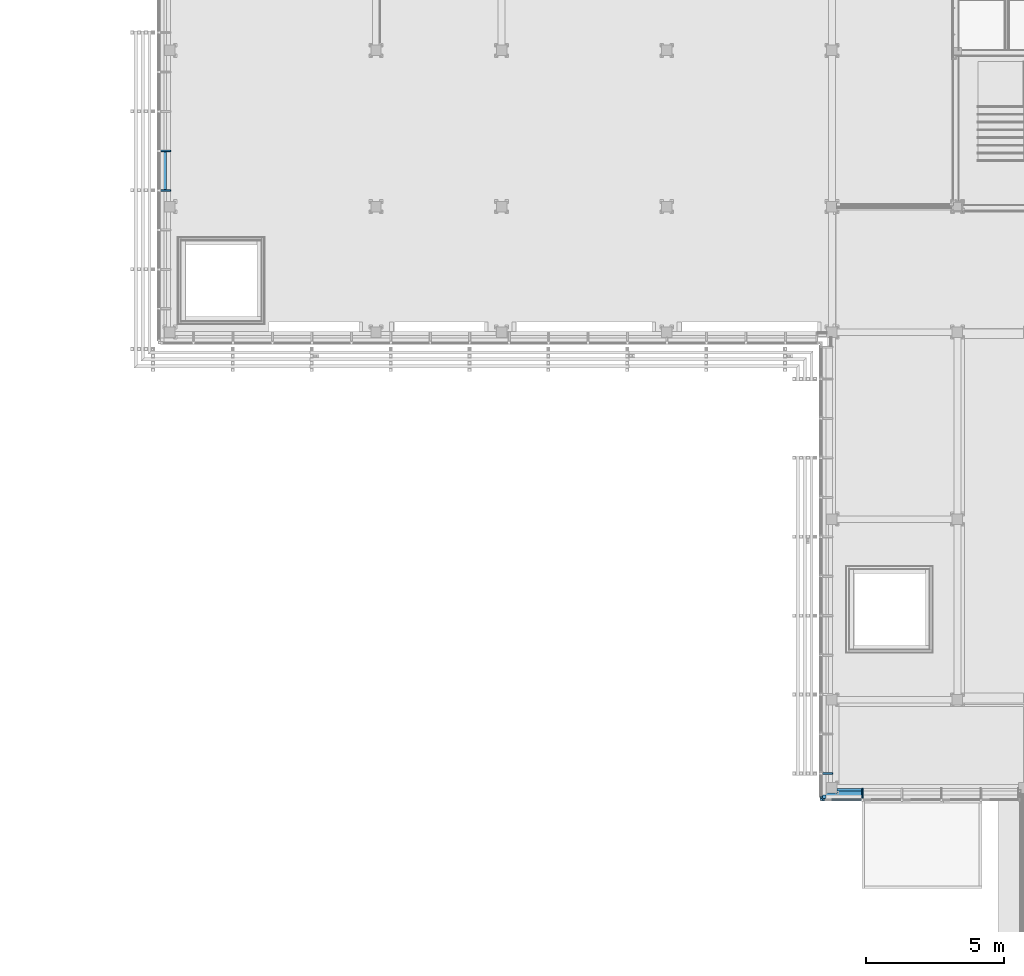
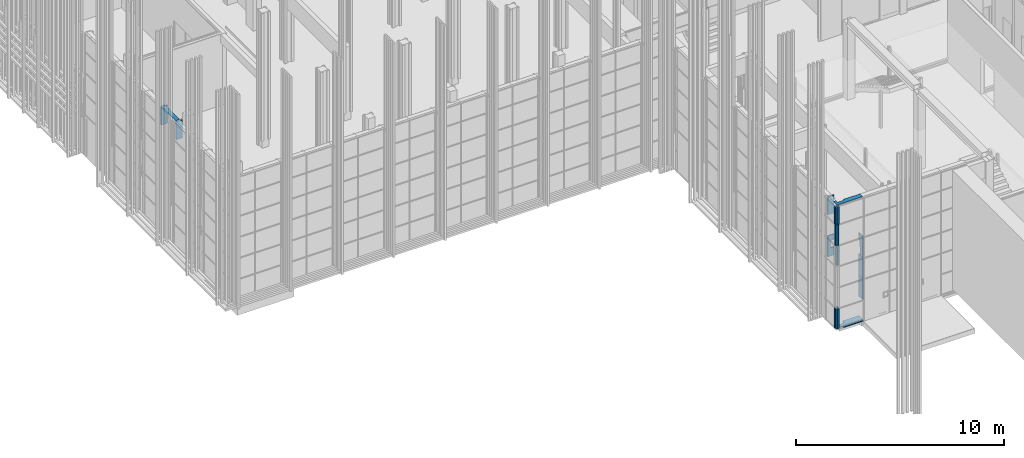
# One storey, part 68 of 260: 17 members, 3 elements without a shape of their own.
"""IFC2X3 building model written with IfcOpenShell, lengths in millimetres."""

from ifc_helpers import new_model, entity, si_unit, converted_unit, derived_unit, money_unit, direction, frame, origin_with_axes, place, context, subcontext, project, spatial, faceted_brep, material, type_object, element, aggregate, save


model = new_model("IFC2X3")

# Units and contexts
model_context = context("Model", 3, precision=0.01, world=origin_with_axes(), true_north=direction((0.0, 1.0)))
body_context = subcontext(model_context, "Body", "Model", "MODEL_VIEW")
ifc_project = project(units=[si_unit("LENGTHUNIT", "METRE", prefix="MILLI"), si_unit("AREAUNIT", "SQUARE_METRE"), si_unit("VOLUMEUNIT", "CUBIC_METRE"), converted_unit("PLANEANGLEUNIT", "DEGREE", entity("IfcPlaneAngleMeasure", 0.0174532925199), si_unit("PLANEANGLEUNIT", "RADIAN"), dimensions=[0, 0, 0, 0, 0, 0, 0]), money_unit("EUR"), converted_unit("TIMEUNIT", "Year", entity("IfcTimeMeasure", 31556926.0), si_unit("TIMEUNIT", "SECOND"), dimensions=[0, 0, 1, 0, 0, 0, 0]), si_unit("MASSUNIT", "GRAM", prefix="KILO"), si_unit("THERMODYNAMICTEMPERATUREUNIT", "DEGREE_CELSIUS"), si_unit("LUMINOUSINTENSITYUNIT", "LUMEN"), si_unit("ENERGYUNIT", "JOULE", prefix="MEGA"), derived_unit("THERMALCONDUCTANCEUNIT", [(si_unit("POWERUNIT", "WATT"), 1), (si_unit("LENGTHUNIT", "METRE"), -1), (si_unit("THERMODYNAMICTEMPERATUREUNIT", "KELVIN"), -1)]), derived_unit("SPECIFICHEATCAPACITYUNIT", [(si_unit("ENERGYUNIT", "JOULE"), 1), (si_unit("MASSUNIT", "GRAM", prefix="KILO"), -1), (si_unit("THERMODYNAMICTEMPERATUREUNIT", "KELVIN"), -1)]), derived_unit("MASSDENSITYUNIT", [(si_unit("MASSUNIT", "GRAM", prefix="KILO"), 1), (si_unit("VOLUMEUNIT", "CUBIC_METRE"), -1)])], contexts=[model_context])

# Site, building, storey
site_placement = place(None, origin_with_axes())
site = spatial("IfcSite", under=ifc_project, at=site_placement, Name="Kolde pst 67a", CompositionType="ELEMENT")
building_placement = place(site_placement, origin_with_axes())
building = spatial("IfcBuilding", under=site, at=building_placement, Name="Riigigümnaasium", CompositionType="ELEMENT")
storey_placement = place(building_placement, origin_with_axes())
storey = spatial("IfcBuildingStorey", under=building, at=storey_placement, Name="1. korrus", CompositionType="ELEMENT", Elevation=0.0)

# Curtain wall, members
curtain_wall_type = type_object("IfcCurtainWallType", Name="Curtain Wall Type", PredefinedType="NOTDEFINED")
curtain_wall_1_placement = place(storey_placement, frame((47829.9854655, 8727.77020058, -0.000749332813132), z_axis=(0.0, 0.0, 1.0), x_axis=(1.0, 0.0, 0.0)))
curtain_wall_1 = element("IfcCurtainWall", 1, at=curtain_wall_1_placement, inside=storey, type_object=curtain_wall_type, Name="KLAASFASSAAD")
ifc_material_1 = material(Name="_METALL - alumiinium")
member_type_1 = type_object("IfcMemberType", Name="Corner Frame 80 x 100", PredefinedType="MEMBER")
member_1_placement = place(curtain_wall_1_placement, frame((1.32891386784e-06, -1457.77010008, 0.0), z_axis=(0.0, 0.0, 1.0), x_axis=(0.707106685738, -0.707106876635, 0.0)))
member_1 = element("IfcMember", 2, at=member_1_placement, type_object=member_type_1, material=ifc_material_1, Name="RF RAAM NURK-947", ObjectType="MEMBER", context=body_context, shape_type="Brep", body=[
    faceted_brep([(-89.4490168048, 66.1144718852, 50.0), (-89.4490168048, 66.1144718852, 1230.00074933), (-66.1144961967, 89.4489988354, 1230.00074933), (-66.1144961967, 89.4489988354, 50.0), (-75.3068792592, 51.9723381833, 50.0), (-75.3068792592, 51.9723381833, 1230.00074933), (-51.9723586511, 75.3068651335, 1230.00074933), (-51.9723586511, 75.3068651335, 50.0)], [[[0, 1, 2, 3]], [[4, 5, 1, 0]], [[2, 1, 5, 6]], [[3, 2, 6, 7]], [[3, 7, 4, 0]], [[7, 6, 5, 4]]]),
    faceted_brep([(-87.3277025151, 110.662199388, 50.0), (-87.3277025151, 110.662199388, 1230.00074933), (-56.5685617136, 141.42134855, 1230.00074933), (-56.5685617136, 141.42134855, 50.0), (-30.7591523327, 54.0936645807, 50.0), (-30.7591523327, 54.0936645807, 1230.00074933), (-1.15311920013e-05, 84.8528137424, 1230.00074933), (-1.15311920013e-05, 84.8528137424, 50.0)], [[[0, 1, 2, 3]], [[4, 5, 1, 0]], [[2, 1, 5, 6]], [[3, 2, 6, 7]], [[3, 7, 4, 0]], [[7, 6, 5, 4]]]),
    faceted_brep([(-54.0936729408, 30.7591376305, 50.0), (-54.0936729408, 30.7591376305, 1230.00074933), (-70.7106800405, 14.1421260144, 1230.00074933), (-70.7106800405, 14.1421260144, 50.0), (-110.662223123, 87.3276724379, 50.0), (-110.662223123, 87.3276724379, 1230.00074933), (-127.279230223, 70.7106608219, 1230.00074933), (-127.279230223, 70.7106608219, 50.0)], [[[0, 1, 2, 3]], [[4, 5, 1, 0]], [[2, 1, 5, 6]], [[3, 2, 6, 7]], [[3, 7, 4, 0]], [[7, 6, 5, 4]]]),
    faceted_brep([(49.8510328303, 35.0017788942, 50.0), (49.8510328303, 35.0017788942, 1230.00074933), (54.0936729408, 30.7591376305, 1230.00074933), (54.0936729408, 30.7591376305, 50.0), (0.0, -14.849240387, 50.0), (0.0, -14.849240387, 1230.00074933), (-49.8510328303, 35.0017788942, 1230.00074933), (-54.0936729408, 30.7591376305, 1230.00074933), (0.0, -23.3345206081, 1230.00074933), (0.0, -23.3345206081, 50.0), (-54.0936729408, 30.7591376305, 50.0), (-49.8510328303, 35.0017788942, 50.0)], [[[0, 1, 2, 3]], [[4, 5, 1, 0]], [[2, 1, 5, 6, 7, 8]], [[3, 2, 8, 9]], [[3, 9, 10, 11, 4, 0]], [[11, 6, 5, 4]], [[10, 7, 6, 11]], [[9, 8, 7, 10]]]),
    faceted_brep([(45.6083915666, 30.7591387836, 50.0), (45.6083915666, 30.7591387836, 1230.00074933), (18.738337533, 57.6292001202, 1230.00074933), (18.738337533, 57.6292001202, 50.0), (49.8510328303, 35.0017788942, 50.0), (49.8510328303, 35.0017788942, 1230.00074933), (18.7383386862, 66.1144814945, 1230.00074933), (0.0, 47.3761479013, 1230.00074933), (-18.7383386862, 66.1144814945, 1230.00074933), (-49.8510328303, 35.0017788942, 1230.00074933), (-45.6083915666, 30.7591387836, 1230.00074933), (-18.738337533, 57.6292001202, 1230.00074933), (0.0, 38.8908676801, 1230.00074933), (0.0, 38.8908676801, 50.0), (-18.738337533, 57.6292001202, 50.0), (-45.6083915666, 30.7591387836, 50.0), (-49.8510328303, 35.0017788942, 50.0), (-18.7383386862, 66.1144814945, 50.0), (0.0, 47.3761479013, 50.0), (18.7383386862, 66.1144814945, 50.0)], [[[0, 1, 2, 3]], [[4, 5, 1, 0]], [[2, 1, 5, 6, 7, 8, 9, 10, 11, 12]], [[3, 2, 12, 13]], [[3, 13, 14, 15, 16, 17, 18, 19, 4, 0]], [[19, 6, 5, 4]], [[18, 7, 6, 19]], [[17, 8, 7, 18]], [[16, 9, 8, 17]], [[15, 10, 9, 16]], [[14, 11, 10, 15]], [[13, 12, 11, 14]]]),
    faceted_brep([(18.738337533, 57.6292001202, 50.0), (18.738337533, 57.6292001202, 1230.00074933), (45.6083915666, 30.7591387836, 1230.00074933), (45.6083915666, 30.7591387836, 50.0), (0.0, 38.8908676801, 50.0), (0.0, 38.8908676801, 1230.00074933), (-18.738337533, 57.6292001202, 1230.00074933), (-45.6083915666, 30.7591387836, 1230.00074933), (0.0, -14.849240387, 1230.00074933), (0.0, -14.849240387, 50.0), (-45.6083915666, 30.7591387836, 50.0), (-18.738337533, 57.6292001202, 50.0)], [[[0, 1, 2, 3]], [[4, 5, 1, 0]], [[2, 1, 5, 6, 7, 8]], [[3, 2, 8, 9]], [[3, 9, 10, 11, 4, 0]], [[11, 6, 5, 4]], [[10, 7, 6, 11]], [[9, 8, 7, 10]]]),
    faceted_brep([(75.3068792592, 51.9723381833, 50.0), (75.3068792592, 51.9723381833, 1230.00074933), (51.9723586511, 75.3068651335, 1230.00074933), (51.9723586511, 75.3068651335, 50.0), (89.4490168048, 66.1144718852, 50.0), (89.4490168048, 66.1144718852, 1230.00074933), (66.1144961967, 89.4489988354, 1230.00074933), (66.1144961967, 89.4489988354, 50.0)], [[[0, 1, 2, 3]], [[4, 5, 1, 0]], [[2, 1, 5, 6]], [[3, 2, 6, 7]], [[3, 7, 4, 0]], [[7, 6, 5, 4]]]),
    faceted_brep([(30.7591523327, 54.0936645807, 50.0), (30.7591523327, 54.0936645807, 1230.00074933), (1.15311848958e-05, 84.8528137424, 1230.00074933), (1.15311848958e-05, 84.8528137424, 50.0), (87.3277025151, 110.662199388, 50.0), (87.3277025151, 110.662199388, 1230.00074933), (56.5685617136, 141.42134855, 1230.00074933), (56.5685617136, 141.42134855, 50.0)], [[[0, 1, 2, 3]], [[4, 5, 1, 0]], [[2, 1, 5, 6]], [[3, 2, 6, 7]], [[3, 7, 4, 0]], [[7, 6, 5, 4]]]),
    faceted_brep([(110.662223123, 87.327672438, 50.0), (110.662223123, 87.327672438, 1230.00074933), (127.279230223, 70.7106608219, 1230.00074933), (127.279230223, 70.7106608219, 50.0), (54.0936729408, 30.7591376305, 50.0), (54.0936729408, 30.7591376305, 1230.00074933), (70.7106800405, 14.1421260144, 1230.00074933), (70.7106800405, 14.1421260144, 50.0)], [[[0, 1, 2, 3]], [[4, 5, 1, 0]], [[2, 1, 5, 6]], [[3, 2, 6, 7]], [[3, 7, 4, 0]], [[7, 6, 5, 4]]]),
])
member_2_placement = place(curtain_wall_1_placement, frame((1.32891386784e-06, -1457.77010008, 6150.00074933), z_axis=(0.0, 0.0, 1.0), x_axis=(0.707106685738, -0.707106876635, 0.0)))
member_2 = element("IfcMember", 3, at=member_2_placement, type_object=member_type_1, material=ifc_material_1, Name="RF RAAM NURK-951", ObjectType="MEMBER", context=body_context, shape_type="Brep", body=[
    faceted_brep([(-66.1144961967, 89.4489988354, 0.0), (-89.4490168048, 66.1144718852, 0.0), (-89.4490168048, 66.1144718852, 1059.99934018), (-66.1144961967, 89.4489988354, 1059.99934018), (-51.9723586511, 75.3068651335, 0.0), (-75.3068792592, 51.9723381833, 0.0), (-75.3068792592, 51.9723381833, 1059.99934018), (-51.9723586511, 75.3068651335, 1059.99934018)], [[[0, 1, 2, 3]], [[0, 4, 5, 1]], [[1, 5, 6, 2]], [[3, 2, 6, 7]], [[4, 0, 3, 7]], [[5, 4, 7, 6]]]),
    faceted_brep([(-56.5685617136, 141.42134855, 0.0), (-87.3277025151, 110.662199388, 0.0), (-87.3277025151, 110.662199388, 1059.99934018), (-56.5685617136, 141.42134855, 1059.99934018), (-1.15311920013e-05, 84.8528137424, 0.0), (-30.7591523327, 54.0936645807, 0.0), (-30.7591523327, 54.0936645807, 1059.99934018), (-1.15311920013e-05, 84.8528137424, 1059.99934018)], [[[0, 1, 2, 3]], [[0, 4, 5, 1]], [[1, 5, 6, 2]], [[3, 2, 6, 7]], [[4, 0, 3, 7]], [[5, 4, 7, 6]]]),
    faceted_brep([(-70.7106800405, 14.1421260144, 0.0), (-54.0936729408, 30.7591376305, 0.0), (-54.0936729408, 30.7591376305, 1059.99934018), (-70.7106800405, 14.1421260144, 1059.99934018), (-127.279230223, 70.7106608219, 0.0), (-110.662223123, 87.3276724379, 0.0), (-110.662223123, 87.3276724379, 1059.99934018), (-127.279230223, 70.7106608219, 1059.99934018)], [[[0, 1, 2, 3]], [[0, 4, 5, 1]], [[1, 5, 6, 2]], [[3, 2, 6, 7]], [[4, 0, 3, 7]], [[5, 4, 7, 6]]]),
    faceted_brep([(54.0936729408, 30.7591376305, 0.0), (49.8510328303, 35.0017788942, 0.0), (49.8510328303, 35.0017788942, 1059.99934018), (54.0936729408, 30.7591376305, 1059.99934018), (0.0, -23.3345206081, 0.0), (-54.0936729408, 30.7591376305, 0.0), (-49.8510328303, 35.0017788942, 0.0), (0.0, -14.849240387, 0.0), (0.0, -14.849240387, 1059.99934018), (-49.8510328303, 35.0017788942, 1059.99934018), (-54.0936729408, 30.7591376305, 1059.99934018), (0.0, -23.3345206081, 1059.99934018)], [[[0, 1, 2, 3]], [[0, 4, 5, 6, 7, 1]], [[1, 7, 8, 2]], [[3, 2, 8, 9, 10, 11]], [[4, 0, 3, 11]], [[5, 4, 11, 10]], [[6, 5, 10, 9]], [[7, 6, 9, 8]]]),
    faceted_brep([(18.738337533, 57.6292001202, 0.0), (45.6083915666, 30.7591387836, 0.0), (45.6083915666, 30.7591387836, 1059.99934018), (18.738337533, 57.6292001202, 1059.99934018), (0.0, 38.8908676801, 0.0), (-18.738337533, 57.6292001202, 0.0), (-45.6083915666, 30.7591387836, 0.0), (-49.8510328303, 35.0017788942, 0.0), (-18.7383386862, 66.1144814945, 0.0), (0.0, 47.3761479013, 0.0), (18.7383386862, 66.1144814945, 0.0), (49.8510328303, 35.0017788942, 0.0), (49.8510328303, 35.0017788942, 1059.99934018), (18.7383386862, 66.1144814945, 1059.99934018), (0.0, 47.3761479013, 1059.99934018), (-18.7383386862, 66.1144814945, 1059.99934018), (-49.8510328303, 35.0017788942, 1059.99934018), (-45.6083915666, 30.7591387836, 1059.99934018), (-18.738337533, 57.6292001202, 1059.99934018), (0.0, 38.8908676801, 1059.99934018)], [[[0, 1, 2, 3]], [[0, 4, 5, 6, 7, 8, 9, 10, 11, 1]], [[1, 11, 12, 2]], [[3, 2, 12, 13, 14, 15, 16, 17, 18, 19]], [[4, 0, 3, 19]], [[5, 4, 19, 18]], [[6, 5, 18, 17]], [[7, 6, 17, 16]], [[8, 7, 16, 15]], [[9, 8, 15, 14]], [[10, 9, 14, 13]], [[11, 10, 13, 12]]]),
    faceted_brep([(45.6083915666, 30.7591387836, 0.0), (18.738337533, 57.6292001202, 0.0), (18.738337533, 57.6292001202, 1059.99934018), (45.6083915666, 30.7591387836, 1059.99934018), (0.0, -14.849240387, 0.0), (-45.6083915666, 30.7591387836, 0.0), (-18.738337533, 57.6292001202, 0.0), (0.0, 38.8908676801, 0.0), (0.0, 38.8908676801, 1059.99934018), (-18.738337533, 57.6292001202, 1059.99934018), (-45.6083915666, 30.7591387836, 1059.99934018), (0.0, -14.849240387, 1059.99934018)], [[[0, 1, 2, 3]], [[0, 4, 5, 6, 7, 1]], [[1, 7, 8, 2]], [[3, 2, 8, 9, 10, 11]], [[4, 0, 3, 11]], [[5, 4, 11, 10]], [[6, 5, 10, 9]], [[7, 6, 9, 8]]]),
    faceted_brep([(51.9723586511, 75.3068651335, 0.0), (75.3068792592, 51.9723381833, 0.0), (75.3068792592, 51.9723381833, 1059.99934018), (51.9723586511, 75.3068651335, 1059.99934018), (66.1144961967, 89.4489988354, 0.0), (89.4490168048, 66.1144718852, 0.0), (89.4490168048, 66.1144718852, 1059.99934018), (66.1144961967, 89.4489988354, 1059.99934018)], [[[0, 1, 2, 3]], [[0, 4, 5, 1]], [[1, 5, 6, 2]], [[3, 2, 6, 7]], [[4, 0, 3, 7]], [[5, 4, 7, 6]]]),
    faceted_brep([(1.15311848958e-05, 84.8528137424, 0.0), (30.7591523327, 54.0936645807, 0.0), (30.7591523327, 54.0936645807, 1059.99934018), (1.15311848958e-05, 84.8528137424, 1059.99934018), (56.5685617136, 141.42134855, 0.0), (87.3277025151, 110.662199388, 0.0), (87.3277025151, 110.662199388, 1059.99934018), (56.5685617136, 141.42134855, 1059.99934018)], [[[0, 1, 2, 3]], [[0, 4, 5, 1]], [[1, 5, 6, 2]], [[3, 2, 6, 7]], [[4, 0, 3, 7]], [[5, 4, 7, 6]]]),
    faceted_brep([(127.279230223, 70.7106608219, 0.0), (110.662223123, 87.327672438, 0.0), (110.662223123, 87.327672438, 1059.99934018), (127.279230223, 70.7106608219, 1059.99934018), (70.7106800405, 14.1421260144, 0.0), (54.0936729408, 30.7591376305, 0.0), (54.0936729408, 30.7591376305, 1059.99934018), (70.7106800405, 14.1421260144, 1059.99934018)], [[[0, 1, 2, 3]], [[0, 4, 5, 1]], [[1, 5, 6, 2]], [[3, 2, 6, 7]], [[4, 0, 3, 7]], [[5, 4, 7, 6]]]),
])
member_type_2 = type_object("IfcMemberType", Name="Boundary Frame 50 x 100", PredefinedType="MEMBER")
member_3_placement = place(curtain_wall_1_placement, frame((1478.56558705, -1457.77050059, 0.000719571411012), z_axis=(-1.0, 2.70881141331e-07, 0.0), x_axis=(0.0, 0.0, 1.0)))
member_3 = element("IfcMember", 4, at=member_3_placement, type_object=member_type_2, material=ifc_material_1, Name="RF RAAM SERV-533", ObjectType="MEMBER", context=body_context, shape_type="Brep", body=[
    faceted_brep([(30.0, 16.5, 1095.00000423), (50.0, 16.5, 1095.00000423), (50.0, 60.0, 1095.00000423), (0.0, 60.0, 1095.00000423), (0.0, -40.0, 1095.00000423), (50.0, -40.0, 1095.00000423), (50.0, -16.5, 1095.00000423), (30.0, -16.5, 1095.00000423), (30.0, 16.5, 0.0), (50.0, 16.5, 0.0), (50.0, 60.0, 0.0), (0.0, 60.0, 0.0), (0.0, -40.0, 0.0), (50.0, -40.0, 0.0), (50.0, -16.5, 0.0), (30.0, -16.5, 0.0)], [[[0, 1, 2, 3, 4, 5, 6, 7]], [[0, 8, 9, 1]], [[9, 10, 2, 1]], [[10, 11, 3, 2]], [[11, 12, 4, 3]], [[12, 13, 5, 4]], [[6, 5, 13, 14]], [[14, 15, 7, 6]], [[7, 15, 8, 0]], [[8, 15, 14, 13, 12, 11, 10, 9]]]),
])
member_type_3 = type_object("IfcMemberType", Name="50 x 100", PredefinedType="MEMBER")
member_4_placement = place(curtain_wall_1_placement, frame((1.32891386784e-06, -1457.77010008, 4920.00074933), z_axis=(0.0, 0.0, 1.0), x_axis=(0.707106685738, -0.707106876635, 0.0)))
member_4 = element("IfcMember", 5, at=member_4_placement, type_object=member_type_3, material=ifc_material_1, Name="RF RAAM NURK-869", ObjectType="MEMBER", context=body_context, shape_type="Brep", body=[
    faceted_brep([(-66.1144961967, 89.4489988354, 0.0), (-89.4490168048, 66.1144718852, 0.0), (-89.4490168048, 66.1144718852, 1230.0), (-66.1144961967, 89.4489988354, 1230.0), (-51.9723586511, 75.3068651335, 0.0), (-75.3068792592, 51.9723381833, 0.0), (-75.3068792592, 51.9723381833, 1230.0), (-51.9723586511, 75.3068651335, 1230.0)], [[[0, 1, 2, 3]], [[0, 4, 5, 1]], [[1, 5, 6, 2]], [[3, 2, 6, 7]], [[4, 0, 3, 7]], [[5, 4, 7, 6]]]),
    faceted_brep([(-45.9619585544, 130.814748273, 0.0), (-76.7210993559, 100.055599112, 0.0), (-76.7210993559, 100.055599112, 1230.0), (-45.9619585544, 130.814748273, 1230.0), (-10.6066146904, 95.4594140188, 0.0), (-41.3657554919, 64.7002648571, 0.0), (-41.3657554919, 64.7002648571, 1230.0), (-10.6066146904, 95.4594140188, 1230.0)], [[[0, 1, 2, 3]], [[0, 4, 5, 1]], [[1, 5, 6, 2]], [[3, 2, 6, 7]], [[4, 0, 3, 7]], [[5, 4, 7, 6]]]),
    faceted_brep([(-81.3172831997, 24.7487262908, 0.0), (-64.7002761, 41.3657379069, 0.0), (-64.7002761, 41.3657379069, 1230.0), (-81.3172831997, 24.7487262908, 1230.0), (-116.672627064, 60.1040605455, 0.0), (-100.055619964, 76.7210721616, 0.0), (-100.055619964, 76.7210721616, 1230.0), (-116.672627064, 60.1040605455, 1230.0)], [[[0, 1, 2, 3]], [[0, 4, 5, 1]], [[1, 5, 6, 2]], [[3, 2, 6, 7]], [[4, 0, 3, 7]], [[5, 4, 7, 6]]]),
    faceted_brep([(64.7002761, 41.3657379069, 0.0), (60.4576359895, 45.6083791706, 0.0), (60.4576359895, 45.6083791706, 1230.0), (64.7002761, 41.3657379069, 1230.0), (0.0, -23.3345206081, 0.0), (-64.7002761, 41.3657379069, 0.0), (-60.4576359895, 45.6083791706, 0.0), (0.0, -14.849240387, 0.0), (0.0, -14.849240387, 1230.0), (-60.4576359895, 45.6083791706, 1230.0), (-64.7002761, 41.3657379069, 1230.0), (0.0, -23.3345206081, 1230.0)], [[[0, 1, 2, 3]], [[0, 4, 5, 6, 7, 1]], [[1, 7, 8, 2]], [[3, 2, 8, 9, 10, 11]], [[4, 0, 3, 11]], [[5, 4, 11, 10]], [[6, 5, 10, 9]], [[7, 6, 9, 8]]]),
    faceted_brep([(29.3449406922, 68.2358003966, 0.0), (56.2149947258, 41.36573906, 0.0), (56.2149947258, 41.36573906, 1230.0), (29.3449406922, 68.2358003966, 1230.0), (0.0, 38.8908676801, 0.0), (-29.3449406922, 68.2358003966, 0.0), (-56.2149947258, 41.36573906, 0.0), (-60.4576359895, 45.6083791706, 0.0), (-29.3449418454, 76.7210817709, 0.0), (0.0, 47.3761479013, 0.0), (29.3449418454, 76.7210817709, 0.0), (60.4576359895, 45.6083791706, 0.0), (60.4576359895, 45.6083791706, 1230.0), (29.3449418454, 76.7210817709, 1230.0), (0.0, 47.3761479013, 1230.0), (-29.3449418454, 76.7210817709, 1230.0), (-60.4576359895, 45.6083791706, 1230.0), (-56.2149947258, 41.36573906, 1230.0), (-29.3449406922, 68.2358003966, 1230.0), (0.0, 38.8908676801, 1230.0)], [[[0, 1, 2, 3]], [[0, 4, 5, 6, 7, 8, 9, 10, 11, 1]], [[1, 11, 12, 2]], [[3, 2, 12, 13, 14, 15, 16, 17, 18, 19]], [[4, 0, 3, 19]], [[5, 4, 19, 18]], [[6, 5, 18, 17]], [[7, 6, 17, 16]], [[8, 7, 16, 15]], [[9, 8, 15, 14]], [[10, 9, 14, 13]], [[11, 10, 13, 12]]]),
    faceted_brep([(56.2149947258, 41.36573906, 0.0), (29.3449406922, 68.2358003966, 0.0), (29.3449406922, 68.2358003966, 1230.0), (56.2149947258, 41.36573906, 1230.0), (0.0, -14.849240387, 0.0), (-56.2149947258, 41.36573906, 0.0), (-29.3449406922, 68.2358003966, 0.0), (0.0, 38.8908676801, 0.0), (0.0, 38.8908676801, 1230.0), (-29.3449406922, 68.2358003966, 1230.0), (-56.2149947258, 41.36573906, 1230.0), (0.0, -14.849240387, 1230.0)], [[[0, 1, 2, 3]], [[0, 4, 5, 6, 7, 1]], [[1, 7, 8, 2]], [[3, 2, 8, 9, 10, 11]], [[4, 0, 3, 11]], [[5, 4, 11, 10]], [[6, 5, 10, 9]], [[7, 6, 9, 8]]]),
    faceted_brep([(51.9723586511, 75.3068651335, 0.0), (75.3068792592, 51.9723381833, 0.0), (75.3068792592, 51.9723381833, 1230.0), (51.9723586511, 75.3068651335, 1230.0), (66.1144961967, 89.4489988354, 0.0), (89.4490168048, 66.1144718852, 0.0), (89.4490168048, 66.1144718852, 1230.0), (66.1144961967, 89.4489988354, 1230.0)], [[[0, 1, 2, 3]], [[0, 4, 5, 1]], [[1, 5, 6, 2]], [[3, 2, 6, 7]], [[4, 0, 3, 7]], [[5, 4, 7, 6]]]),
    faceted_brep([(10.6066146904, 95.4594140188, 0.0), (41.3657554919, 64.7002648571, 0.0), (41.3657554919, 64.7002648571, 1230.0), (10.6066146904, 95.4594140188, 1230.0), (45.9619585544, 130.814748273, 0.0), (76.7210993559, 100.055599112, 0.0), (76.7210993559, 100.055599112, 1230.0), (45.9619585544, 130.814748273, 1230.0)], [[[0, 1, 2, 3]], [[0, 4, 5, 1]], [[1, 5, 6, 2]], [[3, 2, 6, 7]], [[4, 0, 3, 7]], [[5, 4, 7, 6]]]),
    faceted_brep([(116.672627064, 60.1040605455, 0.0), (100.055619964, 76.7210721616, 0.0), (100.055619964, 76.7210721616, 1230.0), (116.672627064, 60.1040605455, 1230.0), (81.3172831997, 24.7487262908, 0.0), (64.7002761, 41.3657379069, 0.0), (64.7002761, 41.3657379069, 1230.0), (81.3172831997, 24.7487262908, 1230.0)], [[[0, 1, 2, 3]], [[0, 4, 5, 1]], [[1, 5, 6, 2]], [[3, 2, 6, 7]], [[4, 0, 3, 7]], [[5, 4, 7, 6]]]),
])
aggregate(curtain_wall_1, [member_1, member_4, member_3, member_2])

# Curtain wall, member
curtain_wall_2_placement = place(storey_placement, frame((23890.0026791, 27220.1832522, -0.000253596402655), z_axis=(0.0, 0.0, 1.0), x_axis=(1.0, 0.0, 0.0)))
curtain_wall_2 = element("IfcCurtainWall", 6, at=curtain_wall_2_placement, inside=storey, type_object=curtain_wall_type, Name="Klaasfassaadi puitkarkass")
ifc_material_2 = material(Name="_KANDETARIND - liimpuit vastavalt EK osale")
member_type_4 = type_object("IfcMemberType", Name="Boundary Frame 60 x 360", PredefinedType="MEMBER")
member_5_placement = place(curtain_wall_2_placement, frame((1.83251493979e-05, 3575.0, 7260.00000132), z_axis=(-5.12591492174e-09, -1.0, 0.0), x_axis=(0.0, 0.0, -1.0)))
member_5 = element("IfcMember", 7, at=member_5_placement, type_object=member_type_4, material=ifc_material_2, Name="RF RAAM SERV-732", ObjectType="MEMBER", context=body_context, shape_type="Brep", body=[
    faceted_brep([(0.0, 220.000044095, 1429.99999887), (0.0, 220.000036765, -1.12770237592e-06), (0.0, 0.0, 0.0), (0.0, 7.33005833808e-06, 1430.0), (59.9997477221, 220.000036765, -1.12770237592e-06), (59.9997477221, 220.000044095, 1429.99999887), (60.0, 0.0, 0.0), (60.0, 7.33005833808e-06, 1430.0)], [[[0, 1, 2, 3]], [[4, 1, 0, 5]], [[1, 4, 6, 2]], [[2, 6, 7, 3]], [[5, 0, 3, 7]], [[4, 5, 7, 6]]]),
])

# Curtain wall, members
curtain_wall_3_placement = place(storey_placement, frame((47889.9854796, 7778.28071079, -0.000681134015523), z_axis=(0.0, 0.0, 1.0), x_axis=(1.0, 0.0, 0.0)))
curtain_wall_3 = element("IfcCurtainWall", 8, at=curtain_wall_3_placement, inside=storey, type_object=curtain_wall_type, Name="Klaasfassaadi puitkarkass")
member_6_placement = place(curtain_wall_3_placement, frame((1450.65727801, -448.281015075, 0.000492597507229), z_axis=(-1.0, 2.61927578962e-07, 0.0), x_axis=(0.0, 0.0, 1.0)))
member_6 = element("IfcMember", 9, at=member_6_placement, type_object=member_type_4, material=ifc_material_2, Name="RF RAAM SERV-860", ObjectType="MEMBER", context=body_context, shape_type="Brep", body=[
    faceted_brep([(0.000188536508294, 360.0, 920.657372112), (60.0, 360.0, 920.657372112), (60.0, 360.0, 0.0), (0.0, 360.0, 0.0), (60.0, 190.000063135, 920.657327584), (0.000188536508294, 190.000063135, 920.657327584), (60.0, 189.999963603, 1300.65732758), (60.0, 360.0, 1300.65737211), (60.0, 360.0, 1430.0), (60.0, 0.0, 1430.0), (60.0, 0.0, 0.0), (0.0, 0.0, 0.0), (0.0, 0.0, 1430.0), (0.0, 360.0, 1430.0), (0.000188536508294, 360.0, 1300.65737211), (0.000188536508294, 189.999963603, 1300.65732758)], [[[0, 1, 2, 3]], [[4, 1, 0, 5]], [[6, 7, 8, 9, 10, 2, 1, 4]], [[3, 2, 10, 11]], [[5, 0, 3, 11, 12, 13, 14, 15]], [[6, 4, 5, 15]], [[14, 7, 6, 15]], [[7, 14, 13, 8]], [[9, 8, 13, 12]], [[11, 10, 9, 12]]]),
])
member_7_placement = place(curtain_wall_3_placement, frame((20.6572765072, -448.280640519, 7259.99957922), z_axis=(1.0, -2.61927578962e-07, 0.0), x_axis=(0.0, 0.0, -1.0)))
member_7 = element("IfcMember", 10, at=member_7_placement, type_object=member_type_4, material=ifc_material_2, Name="RF RAAM SERV-869", ObjectType="MEMBER", context=body_context, shape_type="Brep", body=[
    faceted_brep([(59.9988980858, 260.000062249, 509.342655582), (0.0, 260.000062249, 509.342655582), (0.0, 260.000303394, 1430.0), (59.9988980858, 260.000303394, 1430.0), (0.0, 190.000063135, 509.342673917), (59.9988980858, 190.000063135, 509.342673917), (0.0, 189.999963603, 129.342673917), (0.0, 360.0, 129.342629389), (0.0, 360.0, 0.0), (0.0, 0.0, 0.0), (0.0, 0.0, 1430.0), (60.0, 0.0, 1430.0), (60.0, 0.0, 0.0), (60.0, 360.0, 0.0), (59.9997201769, 360.0, 129.342629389), (59.9988980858, 189.999963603, 129.342673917)], [[[0, 1, 2, 3]], [[4, 1, 0, 5]], [[6, 7, 8, 9, 10, 2, 1, 4]], [[11, 3, 2, 10]], [[5, 0, 3, 11, 12, 13, 14, 15]], [[6, 4, 5, 15]], [[14, 7, 6, 15]], [[7, 14, 13, 8]], [[9, 8, 13, 12]], [[10, 9, 12, 11]]]),
])

# Member
member_type_5 = type_object("IfcMemberType", Name="Mullion Frame 60 x 360", PredefinedType="MEMBER")
member_8_placement = place(curtain_wall_2_placement, frame((1.09950910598e-05, 2145.0, 6150.0002536), z_axis=(0.0, 0.0, 1.0), x_axis=(-5.12591616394e-09, -1.0, 0.0)))
member_8 = element("IfcMember", 11, at=member_8_placement, type_object=member_type_5, material=ifc_material_2, Name="RF RAAM VERT-189", ObjectType="MEMBER", context=body_context, shape_type="Brep", body=[
    faceted_brep([(30.0, 0.0, 0.0), (30.0, 360.0, 0.0), (30.0, 360.0, 1049.99958427), (30.0, 0.0, 1049.99958755), (-30.0, 360.0, 0.0), (-30.0, 0.0, 0.0), (-30.0, 360.0, 1049.99958427), (-30.0, 0.0, 1049.99958755)], [[[0, 1, 2, 3]], [[4, 1, 0, 5]], [[1, 4, 6, 2]], [[3, 2, 6, 7]], [[5, 0, 3, 7]], [[4, 5, 7, 6]]]),
])

member_9_placement = place(curtain_wall_2_placement, frame((1.83251493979e-05, 3575.0, 6150.0002536), z_axis=(0.0, 0.0, 1.0), x_axis=(-5.12591492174e-09, -1.0, 0.0)))
member_9 = element("IfcMember", 12, at=member_9_placement, type_object=member_type_5, material=ifc_material_2, Name="RF RAAM VERT-190", ObjectType="MEMBER", context=body_context, shape_type="Brep", body=[
    faceted_brep([(30.0, 0.0, 0.0), (30.0, 360.0, 0.0), (30.0, 360.0, 1049.99958427), (30.0, 0.0, 1049.99958755), (-30.0, 360.0, 0.0), (-30.0, 0.0, 0.0), (-30.0, 360.0, 1049.99958427), (-30.0, 0.0, 1049.99958755)], [[[0, 1, 2, 3]], [[4, 1, 0, 5]], [[1, 4, 6, 2]], [[3, 2, 6, 7]], [[5, 0, 3, 7]], [[4, 5, 7, 6]]]),
])

aggregate(curtain_wall_2, [member_8, member_9, member_5])

member_10_placement = place(curtain_wall_3_placement, frame((-4.81769291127e-07, 448.280635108, 3690.00068113), z_axis=(0.0, 0.0, 1.0), x_axis=(1.07471542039e-09, -1.0, 0.0)))
member_10 = element("IfcMember", 13, at=member_10_placement, type_object=member_type_5, material=ifc_material_2, Name="RF RAAM VERT-457", ObjectType="MEMBER", context=body_context, shape_type="Brep", body=[
    faceted_brep([(30.0, 360.0, 910.0), (-30.0, 360.0, 910.0), (-30.0, 360.0, 1230.0), (30.0, 360.0, 1230.0), (-30.0, 150.000002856, 910.0), (30.0, 150.00000243, 910.0), (-30.0, 150.000002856, 480.0), (-30.0, 360.0, 480.0), (-30.0, 360.0, 0.0), (-30.0, 0.0, 0.0), (-30.0, 0.0, 1230.0), (-30.0, 150.000002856, 907.0), (-30.0, 150.000002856, 810.0), (-30.0, 150.000002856, 780.0), (-30.0, 150.000002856, 760.0), (30.0, 0.0, 1230.0), (30.0, 0.0, 0.0), (30.0, 360.0, 0.0), (30.0, 360.0, 480.0), (30.0, 150.00000243, 480.0), (30.0, 150.00000243, 760.0), (30.0, 150.00000243, 780.0), (30.0, 150.00000243, 810.0), (30.0, 150.00000243, 907.0)], [[[0, 1, 2, 3]], [[4, 1, 0, 5]], [[6, 7, 8, 9, 10, 2, 1, 4, 11, 12, 13, 14]], [[10, 15, 3, 2]], [[5, 0, 3, 15, 16, 17, 18, 19, 20, 21, 22, 23]], [[11, 4, 5, 23]], [[18, 7, 6, 19]], [[7, 18, 17, 8]], [[9, 8, 17, 16]], [[10, 9, 16, 15]], [[12, 11, 23, 22]], [[13, 12, 22, 21]], [[14, 13, 21, 20]], [[6, 14, 20, 19]]]),
])

member_11_placement = place(curtain_wall_3_placement, frame((1450.65727801, -448.281015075, 1230.00068113), z_axis=(0.0, 0.0, 1.0), x_axis=(1.0, -2.61927578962e-07, 0.0)))
member_11 = element("IfcMember", 14, at=member_11_placement, type_object=member_type_5, material=ifc_material_2, Name="RF RAAM VERT-457", ObjectType="MEMBER", context=body_context, shape_type="Brep", body=[
    faceted_brep([(29.9999057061, 360.000007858, -30.0), (29.9999057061, 360.000007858, 1230.0), (30.0, 7.85782727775e-06, 1230.0), (30.0, 7.85782727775e-06, -30.0), (-30.0000942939, 359.999992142, -30.0), (-30.0000942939, 359.999992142, 1230.0), (-30.0, -7.85782727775e-06, 1230.0), (-30.0, -7.85782727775e-06, -30.0)], [[[0, 1, 2, 3]], [[4, 5, 1, 0]], [[1, 5, 6, 2]], [[3, 2, 6, 7]], [[0, 3, 7, 4]], [[7, 6, 5, 4]]]),
])

member_12_placement = place(curtain_wall_3_placement, frame((1450.65727801, -448.281015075, 2460.00068113), z_axis=(0.0, 0.0, 1.0), x_axis=(1.0, -2.61927578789e-07, 0.0)))
member_12 = element("IfcMember", 15, at=member_12_placement, type_object=member_type_5, material=ifc_material_2, Name="RF RAAM VERT-457", ObjectType="MEMBER", context=body_context, shape_type="Brep", body=[
    faceted_brep([(30.0, 7.85782727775e-06, 0.0), (29.9999057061, 360.000007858, 0.0), (29.9999057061, 360.000007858, 1230.0), (30.0, 7.85782727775e-06, 1230.0), (-30.0000942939, 359.999992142, 0.0), (-30.0, -7.85782727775e-06, 0.0), (-30.0000942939, 359.999992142, 1230.0), (-30.0, -7.85782727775e-06, 1230.0)], [[[0, 1, 2, 3]], [[4, 1, 0, 5]], [[1, 4, 6, 2]], [[3, 2, 6, 7]], [[5, 0, 3, 7]], [[4, 5, 7, 6]]]),
])

member_13_placement = place(curtain_wall_3_placement, frame((1450.65727801, -448.281015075, 3690.00068113), z_axis=(0.0, 0.0, 1.0), x_axis=(1.0, -2.61927578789e-07, 0.0)))
member_13 = element("IfcMember", 16, at=member_13_placement, type_object=member_type_5, material=ifc_material_2, Name="RF RAAM VERT-457", ObjectType="MEMBER", context=body_context, shape_type="Brep", body=[
    faceted_brep([(29.999934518, 250.000312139, 0.0), (29.999934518, 250.000312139, 480.0), (29.9999240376, 290.012823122, 480.0), (29.9999240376, 290.012823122, 760.0), (29.9999240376, 290.012823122, 780.0), (29.9999240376, 290.012823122, 810.0), (29.9999240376, 290.012823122, 907.0), (29.9999240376, 290.012823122, 910.0), (29.9999057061, 360.000007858, 910.0), (29.9999057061, 360.000007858, 1230.0), (30.0, 7.85782638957e-06, 1230.0), (30.0, 7.85782638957e-06, 0.0), (-30.000065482, 250.000296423, 0.0), (-30.000065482, 250.000296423, 480.0), (-30.000075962, 290.011387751, 480.0), (-30.000075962, 290.011387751, 760.0), (-30.000075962, 290.011387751, 780.0), (-30.000075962, 290.011387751, 810.0), (-30.000075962, 290.011387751, 907.0), (-30.000075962, 290.011387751, 910.0), (-30.0000942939, 359.999992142, 910.0), (-30.0000942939, 359.999992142, 1230.0), (-30.0, -7.85782816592e-06, 1230.0), (-30.0, -7.85782816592e-06, 0.0)], [[[0, 1, 2, 3, 4, 5, 6, 7, 8, 9, 10, 11]], [[1, 0, 12, 13]], [[14, 2, 1, 13]], [[2, 14, 15, 3]], [[16, 4, 3, 15]], [[17, 5, 4, 16]], [[18, 6, 5, 17]], [[19, 7, 6, 18]], [[19, 20, 8, 7]], [[9, 8, 20, 21]], [[21, 22, 10, 9]], [[10, 22, 23, 11]], [[12, 0, 11, 23]], [[13, 12, 23, 22, 21, 20, 19, 18, 17, 16, 15, 14]]]),
])

member_14_placement = place(curtain_wall_3_placement, frame((-4.81769291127e-07, 448.280635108, 6150.00068113), z_axis=(0.0, 0.0, 1.0), x_axis=(1.07471542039e-09, -1.0, 0.0)))
member_14 = element("IfcMember", 17, at=member_14_placement, type_object=member_type_5, material=ifc_material_2, Name="RF RAAM VERT-872", ObjectType="MEMBER", context=body_context, shape_type="Brep", body=[
    faceted_brep([(30.0, 0.0, 0.0), (30.0, 360.0, 0.0), (30.0, 360.0, 1049.99958427), (30.0, 0.0, 1049.99958755), (-30.0, 360.0, 0.0), (-30.0, 0.0, 0.0), (-30.0, 360.0, 1049.99958427), (-30.0, 0.0, 1049.99958755)], [[[0, 1, 2, 3]], [[4, 1, 0, 5]], [[1, 4, 6, 2]], [[3, 2, 6, 7]], [[5, 0, 3, 7]], [[4, 5, 7, 6]]]),
])

member_type_6 = type_object("IfcMemberType", Name="Corner Frame 120 x 120", PredefinedType="MEMBER")
member_15_placement = place(curtain_wall_3_placement, frame((4.81776396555e-07, -448.280635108, 0.0), z_axis=(0.0, 0.0, 1.0), x_axis=(0.707106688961, -0.707106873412, 0.0)))
member_15 = element("IfcMember", 18, at=member_15_placement, type_object=member_type_6, material=ifc_material_2, Name="RF RAAM NURK-857", ObjectType="MEMBER", context=body_context, shape_type="Brep", body=[
    faceted_brep([(0.0, 169.705627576, 60.0), (0.0, 169.705627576, 1230.00068113), (84.852813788, 84.8528136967, 1230.00068113), (84.852813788, 84.8528136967, 60.0), (-84.852813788, 84.8528136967, 60.0), (-84.852813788, 84.8528136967, 1230.00068113), (0.0, 0.0, 1230.00068113), (0.0, 0.0, 60.0)], [[[0, 1, 2, 3]], [[4, 5, 1, 0]], [[2, 1, 5, 6]], [[3, 2, 6, 7]], [[3, 7, 4, 0]], [[7, 6, 5, 4]]]),
])

member_16_placement = place(curtain_wall_3_placement, frame((4.81776396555e-07, -448.280635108, 3690.00068113), z_axis=(0.0, 0.0, 1.0), x_axis=(0.707106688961, -0.707106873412, 0.0)))
member_16 = element("IfcMember", 19, at=member_16_placement, type_object=member_type_6, material=ifc_material_2, Name="RF RAAM NURK-921", ObjectType="MEMBER", context=body_context, shape_type="Brep", body=[
    faceted_brep([(84.852813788, 84.8528136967, 1230.0), (84.852813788, 84.8528136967, 0.0), (0.0, 169.705627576, 0.0), (0.0, 169.705627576, 1230.0), (0.0, 0.0, 1230.0), (0.0, 0.0, 0.0), (-84.852813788, 84.8528136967, 0.0), (-84.852813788, 84.8528136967, 1230.0)], [[[0, 1, 2, 3]], [[4, 5, 1, 0]], [[2, 1, 5, 6]], [[3, 2, 6, 7]], [[4, 0, 3, 7]], [[7, 6, 5, 4]]]),
])

member_17_placement = place(curtain_wall_3_placement, frame((4.81776396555e-07, -448.280635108, 6150.00068113), z_axis=(0.0, 0.0, 1.0), x_axis=(0.707106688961, -0.707106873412, 0.0)))
member_17 = element("IfcMember", 20, at=member_17_placement, type_object=member_type_6, material=ifc_material_2, Name="RF RAAM NURK-923", ObjectType="MEMBER", context=body_context, shape_type="Brep", body=[
    faceted_brep([(84.8528249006, 84.8528025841, 0.0), (0.0, 169.705649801, 0.0), (0.0, 169.705649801, 1049.99934399), (84.8528249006, 84.8528025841, 1049.99934399), (0.0, 0.0, 0.0), (-84.8528249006, 84.8528025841, 0.0), (-84.8528249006, 84.8528025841, 1049.99934399), (0.0, 0.0, 1049.99934399)], [[[0, 1, 2, 3]], [[0, 4, 5, 1]], [[1, 5, 6, 2]], [[3, 2, 6, 7]], [[4, 0, 3, 7]], [[5, 4, 7, 6]]]),
])

aggregate(curtain_wall_3, [member_15, member_16, member_10, member_6, member_11, member_12, member_13, member_7, member_17, member_14])

save(model, "model.ifc")
